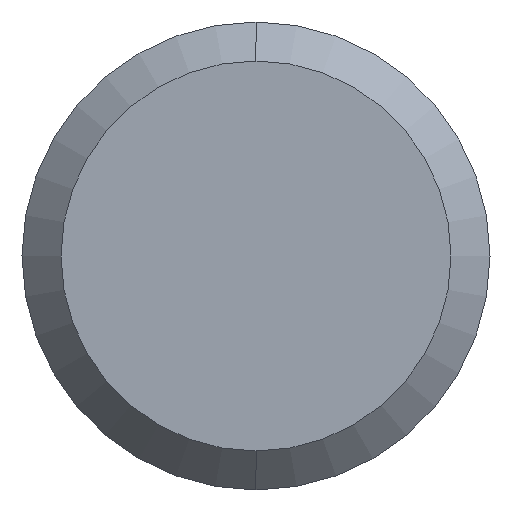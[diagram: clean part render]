
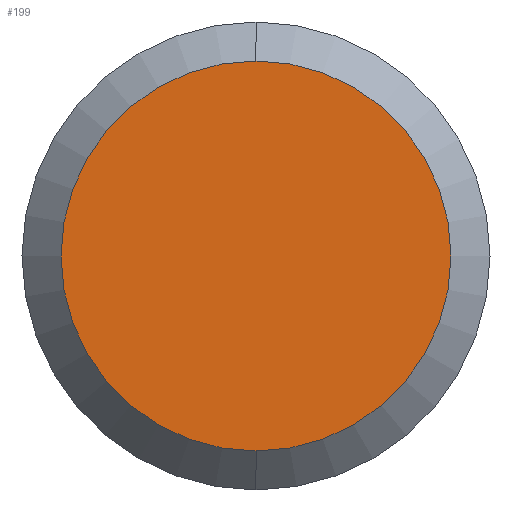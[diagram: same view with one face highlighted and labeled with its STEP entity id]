
A CAD part, left-side view. The second image highlights one B-rep face of the part: STEP entity #199.
In plain terms, the highlighted planar face has unit normal (-1, 0, 0).
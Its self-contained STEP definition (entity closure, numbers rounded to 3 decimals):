
#63 = CARTESIAN_POINT ( 'NONE',  ( 0., 0., 0. ) ) ;
#71 = DIRECTION ( 'NONE',  ( -1., 0., 0. ) ) ;
#109 = DIRECTION ( 'NONE',  ( 0., 0., -1. ) ) ;
#185 = CIRCLE ( 'NONE', #278, 5. ) ;
#197 = CARTESIAN_POINT ( 'NONE',  ( 0., 0., -5. ) ) ;
#199 = ADVANCED_FACE ( 'NONE', ( #265 ), #223, .F. ) ;
#223 = PLANE ( 'NONE',  #426 ) ;
#225 = EDGE_LOOP ( 'NONE', ( #352, #260 ) ) ;
#260 = ORIENTED_EDGE ( 'NONE', *, *, #299, .T. ) ;
#265 = FACE_OUTER_BOUND ( 'NONE', #225, .T. ) ;
#274 = DIRECTION ( 'NONE',  ( 1., 0., 0. ) ) ;
#278 = AXIS2_PLACEMENT_3D ( 'NONE', #63, #395, #109 ) ;
#299 = EDGE_CURVE ( 'NONE', #486, #464, #185, .T. ) ;
#327 = EDGE_CURVE ( 'NONE', #464, #486, #391, .T. ) ;
#352 = ORIENTED_EDGE ( 'NONE', *, *, #327, .T. ) ;
#355 = CARTESIAN_POINT ( 'NONE',  ( 0., 0., 0. ) ) ;
#391 = CIRCLE ( 'NONE', #400, 5. ) ;
#395 = DIRECTION ( 'NONE',  ( -1., 0., 0. ) ) ;
#400 = AXIS2_PLACEMENT_3D ( 'NONE', #355, #71, #405 ) ;
#405 = DIRECTION ( 'NONE',  ( 0., 0., -1. ) ) ;
#426 = AXIS2_PLACEMENT_3D ( 'NONE', #540, #274, #555 ) ;
#464 = VERTEX_POINT ( 'NONE', #197 ) ;
#486 = VERTEX_POINT ( 'NONE', #559 ) ;
#540 = CARTESIAN_POINT ( 'NONE',  ( 0., 0., 0. ) ) ;
#555 = DIRECTION ( 'NONE',  ( 0., 0., -1. ) ) ;
#559 = CARTESIAN_POINT ( 'NONE',  ( 0., 0., 5. ) ) ;
